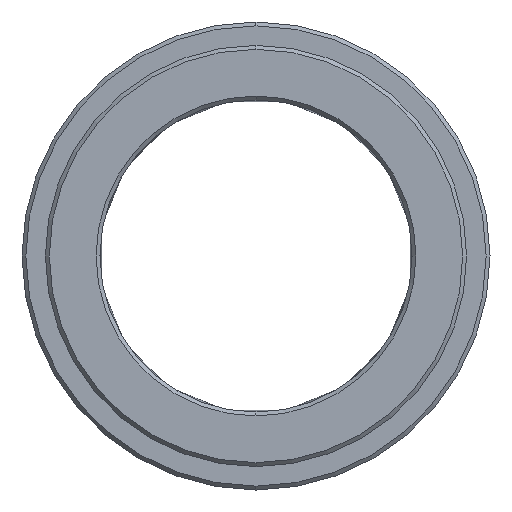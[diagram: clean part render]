
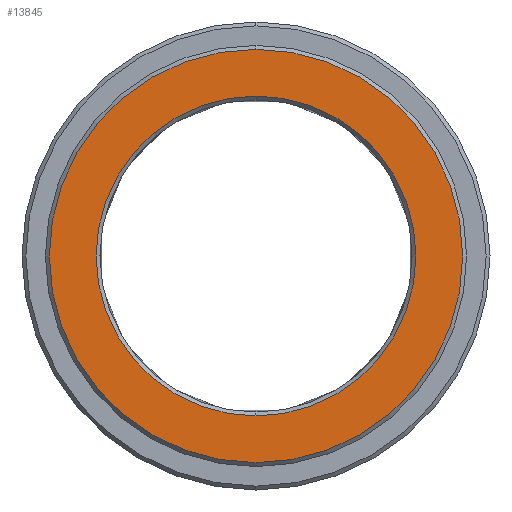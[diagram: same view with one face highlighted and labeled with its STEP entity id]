
A CAD part, left-side view. The second image highlights one B-rep face of the part: STEP entity #13845.
In plain terms, the highlighted planar face has unit normal (-1, 0, 0).
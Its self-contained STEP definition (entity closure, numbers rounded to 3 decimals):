
#9634=CARTESIAN_POINT('',(-10.,0.,
0.));
#9635=DIRECTION('',(1.,0.,0.));
#9636=DIRECTION('',(0.,0.,1.));
#9637=AXIS2_PLACEMENT_3D('',#9634,#9635,#9636);
#9639=CARTESIAN_POINT('',(-10.,0.,
0.));
#9640=DIRECTION('',(1.,0.,0.));
#9641=DIRECTION('',(0.,0.,-1.));
#9642=AXIS2_PLACEMENT_3D('',#9639,#9640,#9641);
#9644=CARTESIAN_POINT('',(-10.,0.,
0.));
#9645=DIRECTION('',(1.,0.,0.));
#9646=DIRECTION('',(0.,0.,1.));
#9647=AXIS2_PLACEMENT_3D('',#9644,#9645,#9646);
#9649=CARTESIAN_POINT('',(-10.,0.,
0.));
#9650=DIRECTION('',(1.,0.,0.));
#9651=DIRECTION('',(0.,0.,-1.));
#9652=AXIS2_PLACEMENT_3D('',#9649,#9650,#9651);
#10184=CARTESIAN_POINT('',(-10.,0.,20.5));
#10185=CARTESIAN_POINT('',(-10.,0.,
-20.5));
#10186=VERTEX_POINT('',#10184);
#10187=VERTEX_POINT('',#10185);
#10192=CARTESIAN_POINT('',(-10.,0.,26.5));
#10193=CARTESIAN_POINT('',(-10.,0.,
-26.5));
#10194=VERTEX_POINT('',#10192);
#10195=VERTEX_POINT('',#10193);
#13830=CARTESIAN_POINT('',(-10.,0.,0.));
#13831=DIRECTION('',(1.,0.,0.));
#13832=DIRECTION('',(0.,0.,1.));
#13833=AXIS2_PLACEMENT_3D('',#13830,#13831,#13832);
#13834=PLANE('',#13833);
#13835=ORIENTED_EDGE('',*,*,#13797,.T.);
#13836=ORIENTED_EDGE('',*,*,#13812,.T.);
#13837=EDGE_LOOP('',(#13835,#13836));
#13838=FACE_OUTER_BOUND('',#13837,.F.);
#13840=ORIENTED_EDGE('',*,*,#13839,.F.);
#13842=ORIENTED_EDGE('',*,*,#13841,.F.);
#13843=EDGE_LOOP('',(#13840,#13842));
#13844=FACE_BOUND('',#13843,.F.);
#13845=ADVANCED_FACE('',(#13838,#13844),#13834,.F.);
#9638=CIRCLE('',#9637,26.5);
#9643=CIRCLE('',#9642,26.5);
#9648=CIRCLE('',#9647,20.5);
#9653=CIRCLE('',#9652,20.5);
#13797=EDGE_CURVE('',#10194,#10195,#9638,.T.);
#13812=EDGE_CURVE('',#10195,#10194,#9643,.T.);
#13839=EDGE_CURVE('',#10186,#10187,#9648,.T.);
#13841=EDGE_CURVE('',#10187,#10186,#9653,.T.);
